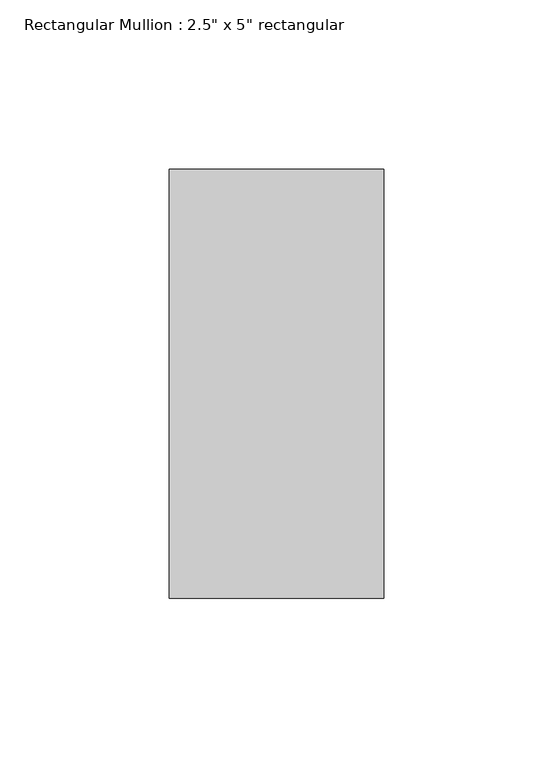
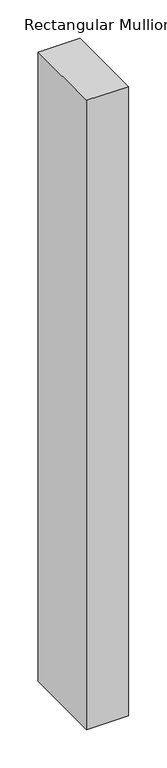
"""IFC4 building model written with IfcOpenShell, lengths in millimetres: member geometry."""

from ifc_helpers import new_model, si_unit, frame, origin, place, context, project, spatial, polyline, outline, extrude, source, transform, mapped, element, save


def member_82c7b017(model_context):
    return source(origin(), model_context, "Body", "SweptSolid", [
        extrude(outline(polyline([(0.0, 50.8), (0.0, -76.2), (-63.5, -76.2), (-63.5, 50.8), (0.0, 50.8)])), frame((0.0, 0.0, -1004.3583333), z_axis=(0.0, 0.0, 1.0), x_axis=(1.0, 0.0, 0.0)), (0.0, 0.0, 1.0), 1004.3583333),
    ])


if __name__ == "__main__":
    model = new_model("IFC4")
    model_context = context("Model", 3, world=origin())
    ifc_project = project(units=[si_unit("LENGTHUNIT", "METRE", prefix="MILLI")], contexts=[model_context])
    site = spatial("IfcSite", under=ifc_project)
    building = spatial("IfcBuilding", under=site)
    placement = place(None, origin())
    member_shape = member_82c7b017(model_context)
    element("IfcMember", 1, ObjectType="Rectangular Mullion : 2.5\" x 5\" rectangular", at=placement, inside=building, context=model_context, shape_type="MappedRepresentation", body=[
        mapped(member_shape, transform((0.0, 0.0, 0.0), x_axis=(1.0, 0.0, 0.0), y_axis=(0.0, 1.0, 0.0), z_axis=(0.0, 0.0, 1.0))),
    ])
    save(model, "model.ifc")
